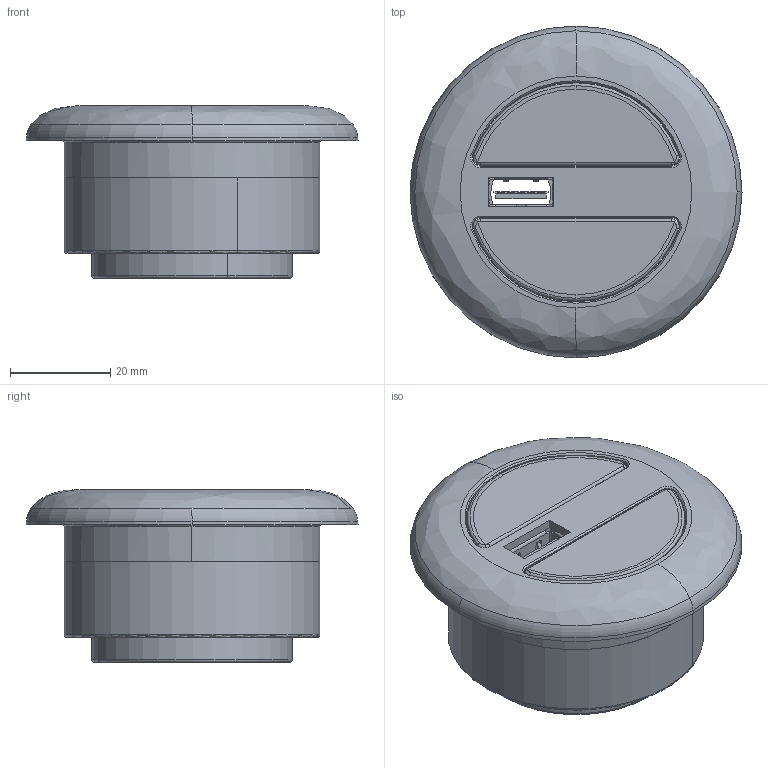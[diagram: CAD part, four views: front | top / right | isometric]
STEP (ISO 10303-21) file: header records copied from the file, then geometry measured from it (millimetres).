
FILE_DESCRIPTION (( 'STEP AP214' ), '1' );
FILE_NAME ('TFH2.STEP', '2015-06-01T06:29:50', ( '' ), ( '' ), 'SwSTEP 2.0', 'SolidWorks 2010', '' );
FILE_SCHEMA (( 'AUTOMOTIVE_DESIGN' ));
Length unit declared in the file: millimetre
Products named in the file (1): TFH2
Bounding box: 66.22 x 66.22 x 34.4 mm (x, y, z)
Surface area: 18398.3 mm2 (no closed solid volume)
Topology: 0 solids, 24 shells, 229 faces, 951 edges, 732 vertices
Faces by surface type: cylinder 85, plane 84, cone 26, torus 20, bspline 14
Entity records: 13099 total; most frequent: CARTESIAN_POINT 2774, DIRECTION 1682, ORIENTED_EDGE 1381, EDGE_CURVE 951, VERTEX_POINT 732, AXIS2_PLACEMENT_3D 582, LINE 518, VECTOR 518
